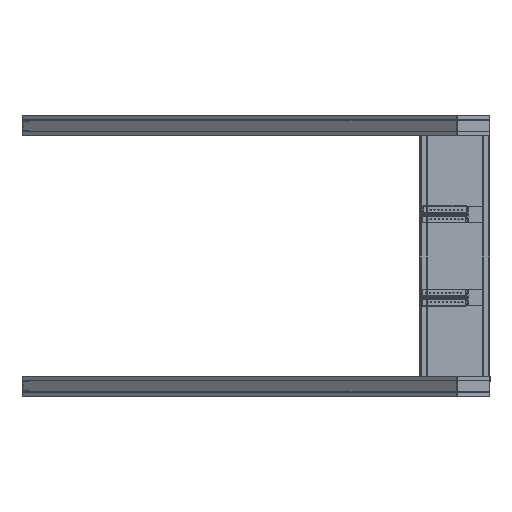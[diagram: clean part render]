
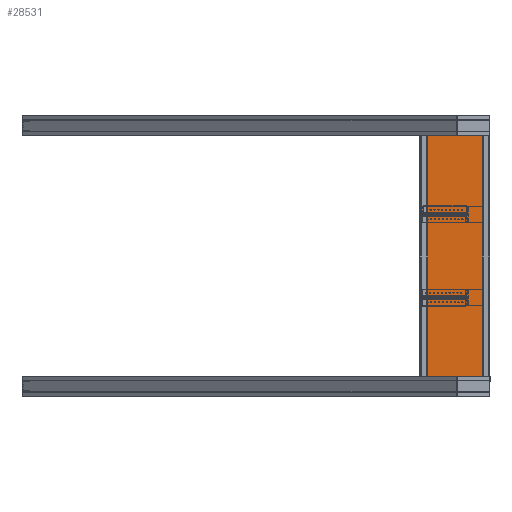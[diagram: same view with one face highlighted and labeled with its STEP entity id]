
A CAD part, left-side view. The second image highlights one B-rep face of the part: STEP entity #28531.
In plain terms, the highlighted planar face has unit normal (-1, 0, 0) as drawn and (0, 0, -1) by its records, which use the part's own axes.
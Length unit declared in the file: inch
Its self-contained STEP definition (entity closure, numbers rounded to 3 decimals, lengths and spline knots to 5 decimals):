
#1802=LINE('',#46934,#3009);
#1803=LINE('',#46936,#3010);
#1804=LINE('',#46938,#3011);
#1805=LINE('',#46939,#3012);
#3009=VECTOR('',#38883,0.3937);
#3010=VECTOR('',#38884,0.3937);
#3011=VECTOR('',#38885,0.3937);
#3012=VECTOR('',#38886,0.3937);
#3893=PLANE('',#32592);
#8127=FACE_OUTER_BOUND('',#11332,.T.);
#11332=EDGE_LOOP('',(#24076,#24077,#24078,#24079));
#16395=VERTEX_POINT('',#46932);
#16396=VERTEX_POINT('',#46933);
#16397=VERTEX_POINT('',#46935);
#16398=VERTEX_POINT('',#46937);
#19255=EDGE_CURVE('',#16395,#16396,#1802,.T.);
#19256=EDGE_CURVE('',#16396,#16397,#1803,.T.);
#19257=EDGE_CURVE('',#16397,#16398,#1804,.T.);
#19258=EDGE_CURVE('',#16398,#16395,#1805,.T.);
#24076=ORIENTED_EDGE('',*,*,#19255,.T.);
#24077=ORIENTED_EDGE('',*,*,#19256,.T.);
#24078=ORIENTED_EDGE('',*,*,#19257,.T.);
#24079=ORIENTED_EDGE('',*,*,#19258,.T.);
#28531=ADVANCED_FACE('',(#8127),#3893,.T.);
#32592=AXIS2_PLACEMENT_3D('',#46931,#38881,#38882);
#38881=DIRECTION('center_axis',(0.,0.,-1.));
#38882=DIRECTION('ref_axis',(-1.,0.,0.));
#38883=DIRECTION('',(1.,0.,0.));
#38884=DIRECTION('',(0.,-1.,0.));
#38885=DIRECTION('',(-1.,0.,0.));
#38886=DIRECTION('',(0.,1.,0.));
#46931=CARTESIAN_POINT('Origin',(0.,27.,-0.192));
#46932=CARTESIAN_POINT('',(-92.375,54.,-0.192));
#46933=CARTESIAN_POINT('',(92.375,54.,-0.192));
#46934=CARTESIAN_POINT('',(-92.375,54.,-0.192));
#46935=CARTESIAN_POINT('',(92.375,0.,-0.192));
#46936=CARTESIAN_POINT('',(92.375,54.,-0.192));
#46937=CARTESIAN_POINT('',(-92.375,0.,-0.192));
#46938=CARTESIAN_POINT('',(92.375,0.,-0.192));
#46939=CARTESIAN_POINT('',(-92.375,0.,-0.192));
